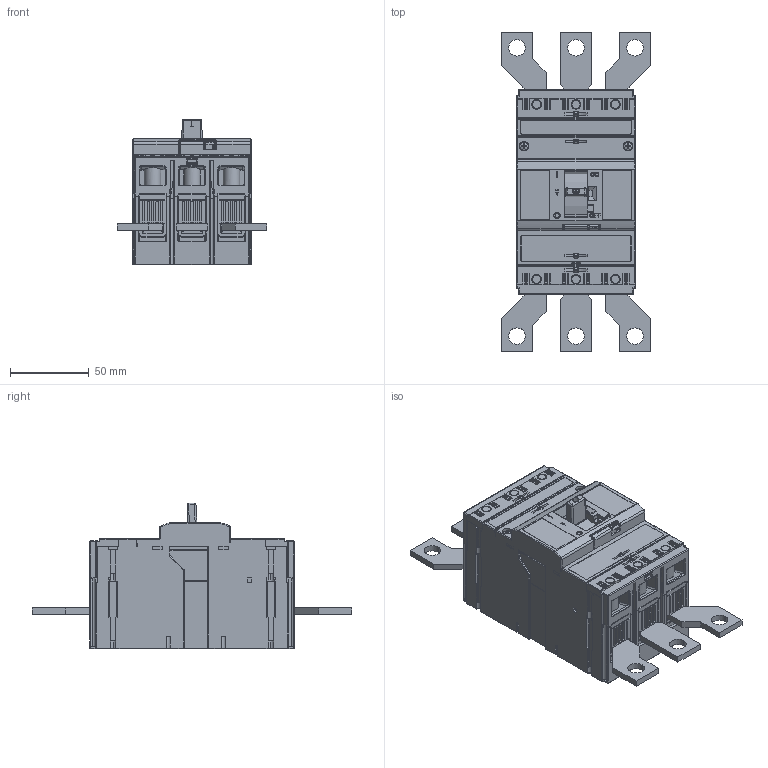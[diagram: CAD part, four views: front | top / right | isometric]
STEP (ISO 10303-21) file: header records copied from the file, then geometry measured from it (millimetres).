
FILE_DESCRIPTION (( 'STEP AP214' ), '1' );
FILE_NAME ('BC160NT305__CS-BC-A033_fin.step', '2013-05-16T07:40:44', ( '' ), ( '' ), 'SwSTEP 2.0', 'SolidWorks 2011', '' );
FILE_SCHEMA (( 'AUTOMOTIVE_DESIGN' ));
Length unit declared in the file: millimetre
Products named in the file (1): BC160NT305__CS-BC-A033_fin
Bounding box: 95 x 203 x 92.5 mm (x, y, z)
Volume: 642511.9 mm3; surface area: 154374.9 mm2
Topology: 15 solids, 15 shells, 4599 faces, 12600 edges, 8057 vertices
Faces by surface type: plane 2658, cylinder 1516, torus 286, bspline 59, sphere 50, cone 30
Entity records: 202596 total; most frequent: CARTESIAN_POINT 35711, ORIENTED_EDGE 25114, DIRECTION 23220, EDGE_CURVE 12557, LINE 8692, VECTOR 8692, VERTEX_POINT 8054, AXIS2_PLACEMENT_3D 7264
